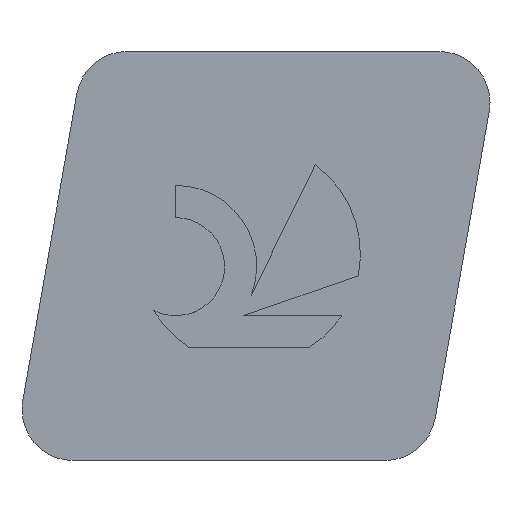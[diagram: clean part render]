
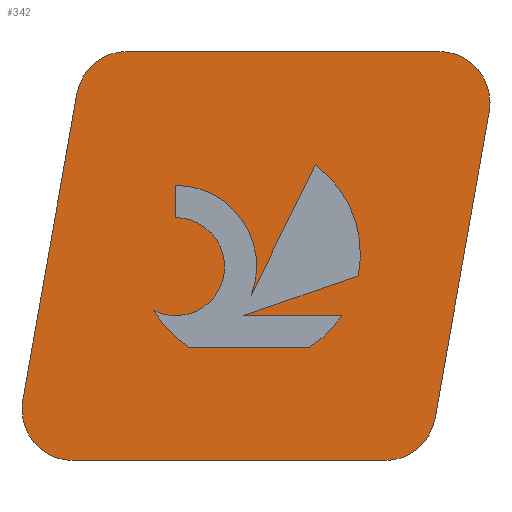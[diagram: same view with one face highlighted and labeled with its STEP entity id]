
A CAD part, top view. The second image highlights one B-rep face of the part: STEP entity #342.
In plain terms, the highlighted planar face has unit normal (0, 0, 1).
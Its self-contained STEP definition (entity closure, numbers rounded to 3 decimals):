
#144=VERTEX_POINT('',#397);
#150=VERTEX_POINT('',#403);
#156=VERTEX_POINT('',#409);
#158=VERTEX_POINT('',#411);
#160=VERTEX_POINT('',#413);
#162=EDGE_CURVE('',#366,#344,#415,.T.);
#166=EDGE_CURVE('',#228,#328,#419,.T.);
#168=EDGE_CURVE('',#352,#228,#421,.T.);
#174=VERTEX_POINT('',#427);
#196=VERTEX_POINT('',#455);
#200=EDGE_CURVE('',#312,#158,#460,.T.);
#204=EDGE_CURVE('',#214,#150,#464,.T.);
#208=EDGE_CURVE('',#330,#368,#468,.T.);
#214=VERTEX_POINT('',#475);
#224=EDGE_CURVE('',#368,#144,#485,.T.);
#228=VERTEX_POINT('',#489);
#234=EDGE_CURVE('',#174,#288,#495,.T.);
#236=EDGE_CURVE('',#158,#174,#497,.T.);
#240=EDGE_CURVE('',#344,#214,#501,.T.);
#256=EDGE_CURVE('',#322,#366,#518,.T.);
#260=EDGE_CURVE('',#288,#160,#523,.T.);
#266=EDGE_CURVE('',#150,#330,#529,.T.);
#280=EDGE_CURVE('',#328,#312,#545,.T.);
#288=VERTEX_POINT('',#554);
#296=EDGE_CURVE('',#326,#322,#563,.T.);
#298=EDGE_CURVE('',#144,#156,#565,.T.);
#312=VERTEX_POINT('',#580);
#322=VERTEX_POINT('',#591);
#326=VERTEX_POINT('',#596);
#328=VERTEX_POINT('',#598);
#330=VERTEX_POINT('',#600);
#342=ADVANCED_FACE('',(#613,#614),#615,.T.);
#344=VERTEX_POINT('',#617);
#348=EDGE_CURVE('',#196,#326,#621,.T.);
#352=VERTEX_POINT('',#625);
#354=EDGE_CURVE('',#160,#352,#627,.T.);
#366=VERTEX_POINT('',#641);
#368=VERTEX_POINT('',#643);
#376=EDGE_CURVE('',#156,#196,#651,.T.);
#397=CARTESIAN_POINT('',(2.532,4.27,0.0));
#403=CARTESIAN_POINT('',(2.196,2.329,0.0));
#409=CARTESIAN_POINT('',(3.71,2.568,0.0));
#411=CARTESIAN_POINT('',(6.564,0.656,0.0));
#413=CARTESIAN_POINT('',(1.786,6.35,0.0));
#415=CIRCLE('',#685,1.724);
#419=CIRCLE('',#691,0.794);
#421=LINE('',#694,#695);
#427=CARTESIAN_POINT('',(7.403,5.418,0.0));
#455=CARTESIAN_POINT('',(4.707,4.59,0.0));
#460=CIRCLE('',#741,0.794);
#464=CIRCLE('',#746,1.724);
#468=CIRCLE('',#753,0.761);
#475=CARTESIAN_POINT('',(2.741,1.76,0.0));
#485=LINE('',#781,#782);
#489=CARTESIAN_POINT('',(0.164,0.932,0.0));
#495=CIRCLE('',#795,0.794);
#497=LINE('',#798,#799);
#501=LINE('',#804,#805);
#518=LINE('',#827,#828);
#523=LINE('',#834,#835);
#529=CIRCLE('',#843,0.761);
#545=LINE('',#864,#865);
#554=CARTESIAN_POINT('',(6.621,6.35,0.0));
#563=LINE('',#890,#891);
#565=CIRCLE('',#894,1.252);
#580=CARTESIAN_POINT('',(5.782,0.0,0.0));
#591=CARTESIAN_POINT('',(3.593,2.25,0.0));
#596=CARTESIAN_POINT('',(5.371,2.868,0.0));
#598=CARTESIAN_POINT('',(0.946,0.0,0.0));
#600=CARTESIAN_POINT('',(2.877,3.69,0.0));
#613=FACE_BOUND('',#957,.T.);
#614=FACE_OUTER_BOUND('',#958,.T.);
#615=PLANE('',#959);
#617=CARTESIAN_POINT('',(4.62,1.76,0.0));
#621=CIRCLE('',#968,1.724);
#625=CARTESIAN_POINT('',(1.004,5.694,0.0));
#627=CIRCLE('',#976,0.794);
#641=CARTESIAN_POINT('',(5.116,2.25,0.0));
#643=CARTESIAN_POINT('',(2.532,3.77,0.0));
#651=LINE('',#1008,#1009);
#685=AXIS2_PLACEMENT_3D('',#1028,#1029,#1030);
#691=AXIS2_PLACEMENT_3D('',#1034,#1035,#1036);
#694=CARTESIAN_POINT('',(1.004,5.694,0.0));
#695=VECTOR('',#1037,1.0);
#741=AXIS2_PLACEMENT_3D('',#1102,#1103,#1104);
#746=AXIS2_PLACEMENT_3D('',#1105,#1106,#1107);
#753=AXIS2_PLACEMENT_3D('',#1109,#1110,#1111);
#781=CARTESIAN_POINT('',(2.532,3.723,0.0));
#782=VECTOR('',#1125,1.0);
#795=AXIS2_PLACEMENT_3D('',#1127,#1128,#1129);
#798=CARTESIAN_POINT('',(6.564,0.656,0.0));
#799=VECTOR('',#1130,1.0);
#804=CARTESIAN_POINT('',(3.263,1.76,0.0));
#805=VECTOR('',#1131,1.0);
#827=CARTESIAN_POINT('',(4.45,2.25,0.0));
#828=VECTOR('',#1151,1.0);
#834=CARTESIAN_POINT('',(6.621,6.35,0.0));
#835=VECTOR('',#1160,1.0);
#843=AXIS2_PLACEMENT_3D('',#1163,#1164,#1165);
#864=CARTESIAN_POINT('',(0.946,0.0,0.0));
#865=VECTOR('',#1184,1.0);
#890=CARTESIAN_POINT('',(3.822,2.33,0.0));
#891=VECTOR('',#1204,1.0);
#894=AXIS2_PLACEMENT_3D('',#1205,#1206,#1207);
#957=EDGE_LOOP('',(#1256,#1257,#1258,#1259,#1260,#1261,#1262,#1263,#1264,#1265,#1266));
#958=EDGE_LOOP('',(#1267,#1268,#1269,#1270,#1271,#1272,#1273,#1274));
#959=AXIS2_PLACEMENT_3D('',#1275,#1276,#1277);
#968=AXIS2_PLACEMENT_3D('',#1279,#1280,#1281);
#976=AXIS2_PLACEMENT_3D('',#1285,#1286,#1287);
#1008=CARTESIAN_POINT('',(4.336,3.838,0.0));
#1009=VECTOR('',#1310,1.0);
#1028=CARTESIAN_POINT('',(3.681,3.205,0.0));
#1029=DIRECTION('',(0.0,-0.0,-1.0));
#1030=DIRECTION('',(0.545,-0.838,0.0));
#1034=CARTESIAN_POINT('',(0.946,0.794,0.0));
#1035=DIRECTION('',(0.0,0.0,1.0));
#1036=DIRECTION('',(-0.985,0.174,0.0));
#1037=DIRECTION('',(-0.174,-0.985,0.0));
#1102=CARTESIAN_POINT('',(5.782,0.794,0.0));
#1103=DIRECTION('',(0.0,0.0,1.0));
#1104=DIRECTION('',(0.,-1.0,0.0));
#1105=CARTESIAN_POINT('',(3.681,3.205,0.0));
#1106=DIRECTION('',(-0.0,0.0,-1.0));
#1107=DIRECTION('',(-0.861,-0.508,0.0));
#1109=CARTESIAN_POINT('',(2.537,3.009,0.0));
#1110=DIRECTION('',(0.0,0.0,1.0));
#1111=DIRECTION('',(-0.447,-0.894,0.0));
#1125=DIRECTION('',(0.0,1.0,0.0));
#1127=CARTESIAN_POINT('',(6.621,5.556,0.0));
#1128=DIRECTION('',(-0.0,0.0,1.0));
#1129=DIRECTION('',(0.985,-0.174,0.0));
#1130=DIRECTION('',(0.174,0.985,0.0));
#1131=DIRECTION('',(-1.0,0.0,0.0));
#1151=DIRECTION('',(1.0,0.0,0.0));
#1160=DIRECTION('',(-1.0,0.0,0.0));
#1163=CARTESIAN_POINT('',(2.537,3.009,0.0));
#1164=DIRECTION('',(0.0,0.0,1.0));
#1165=DIRECTION('',(-0.447,-0.894,0.0));
#1184=DIRECTION('',(1.0,0.0,0.0));
#1204=DIRECTION('',(-0.945,-0.328,0.0));
#1205=CARTESIAN_POINT('',(2.542,3.018,0.0));
#1206=DIRECTION('',(0.0,-0.0,-1.0));
#1207=DIRECTION('',(0.933,-0.359,0.0));
#1256=ORIENTED_EDGE('',*,*,#224,.T.);
#1257=ORIENTED_EDGE('',*,*,#298,.T.);
#1258=ORIENTED_EDGE('',*,*,#376,.T.);
#1259=ORIENTED_EDGE('',*,*,#348,.T.);
#1260=ORIENTED_EDGE('',*,*,#296,.T.);
#1261=ORIENTED_EDGE('',*,*,#256,.T.);
#1262=ORIENTED_EDGE('',*,*,#162,.T.);
#1263=ORIENTED_EDGE('',*,*,#240,.T.);
#1264=ORIENTED_EDGE('',*,*,#204,.T.);
#1265=ORIENTED_EDGE('',*,*,#266,.T.);
#1266=ORIENTED_EDGE('',*,*,#208,.T.);
#1267=ORIENTED_EDGE('',*,*,#280,.T.);
#1268=ORIENTED_EDGE('',*,*,#200,.T.);
#1269=ORIENTED_EDGE('',*,*,#236,.T.);
#1270=ORIENTED_EDGE('',*,*,#234,.T.);
#1271=ORIENTED_EDGE('',*,*,#260,.T.);
#1272=ORIENTED_EDGE('',*,*,#354,.T.);
#1273=ORIENTED_EDGE('',*,*,#168,.T.);
#1274=ORIENTED_EDGE('',*,*,#166,.T.);
#1275=CARTESIAN_POINT('',(3.784,3.175,0.0));
#1276=DIRECTION('',(0.0,0.0,1.0));
#1277=DIRECTION('',(1.0,0.0,0.0));
#1279=CARTESIAN_POINT('',(3.681,3.205,0.0));
#1280=DIRECTION('',(0.0,-0.0,-1.0));
#1281=DIRECTION('',(0.981,-0.196,0.0));
#1285=CARTESIAN_POINT('',(1.786,5.556,0.0));
#1286=DIRECTION('',(0.0,0.0,1.0));
#1287=DIRECTION('',(0.,1.0,0.0));
#1310=DIRECTION('',(0.442,0.897,-0.0));
